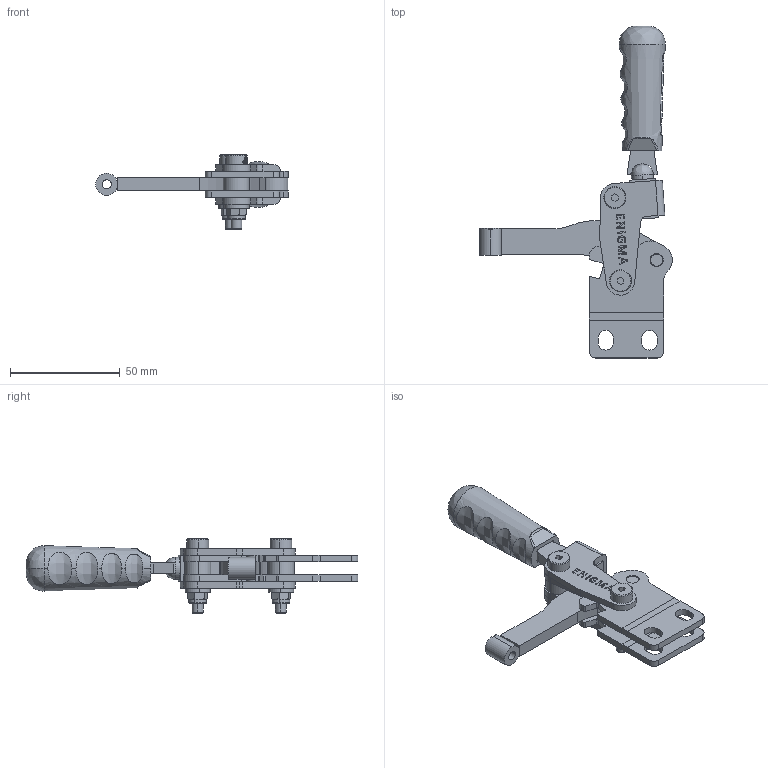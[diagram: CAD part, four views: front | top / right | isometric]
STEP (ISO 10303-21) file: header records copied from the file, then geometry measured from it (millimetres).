
FILE_DESCRIPTION (( 'STEP AP203' ), '1' );
FILE_NAME ('1581_D.STEP', '2022-11-30T09:20:17', ( '' ), ( '' ), 'SwSTEP 2.0', 'SolidWorks 2023', '' );
FILE_SCHEMA (( 'CONFIG_CONTROL_DESIGN' ));
Length unit declared in the file: millimetre
Products named in the file (15): 1531_1581_MAFSAL; Aynalama1531_1581_Y_GÖVDE; 1531_1581_BASKI_KOLU; 1581_HAREKET_KOLU_SAPI; 1581_D; 1581_Rondela; 1581_HAREKET_KOLU; C55_Yeni_Tutamak; 1531_1581_Y_GÖVDE; G39_M5_6x20_Yay_Askı_Civatası; M5_FİBERLİ_SOMUN; Ø12xØ6x6_YÜZÜK; 1581_Küre_Kaynak_Parçası_Otomat; Ağır_Seri_Ø6x12_Tırtıllı_Pim; M5_Lama_Kaynak_Somunu
Assembly tree (20 placements, depth 2):
  1581_D
    1531_1581_Y_GÖVDE
    1531_1581_MAFSAL  x2
    1531_1581_BASKI_KOLU
    1581_HAREKET_KOLU
    Ø12xØ6x6_YÜZÜK  x2
    1581_Küre_Kaynak_Parçası_Otomat
    Ağır_Seri_Ø6x12_Tırtıllı_Pim  x2
    G39_M5_6x20_Yay_Askı_Civatası  x2
    Aynalama1531_1581_Y_GÖVDE
    1581_Rondela  x2
    M5_FİBERLİ_SOMUN  x2
    M5_Lama_Kaynak_Somunu
    1581_HAREKET_KOLU_SAPI
    C55_Yeni_Tutamak
Bounding box: 87.9 x 151.57 x 34 mm (x, y, z)
Volume: 47950.8 mm3; surface area: 32393 mm2
Topology: 20 solids, 20 shells, 1303 faces, 3493 edges, 2300 vertices
Faces by surface type: plane 637, bspline 331, cylinder 281, cone 42, torus 12
Entity records: 41157 total; most frequent: CARTESIAN_POINT 18617, ORIENTED_EDGE 4662, DIRECTION 3739, EDGE_CURVE 2331, VERTEX_POINT 1536, VECTOR 1359, LINE 1359, AXIS2_PLACEMENT_3D 1190
